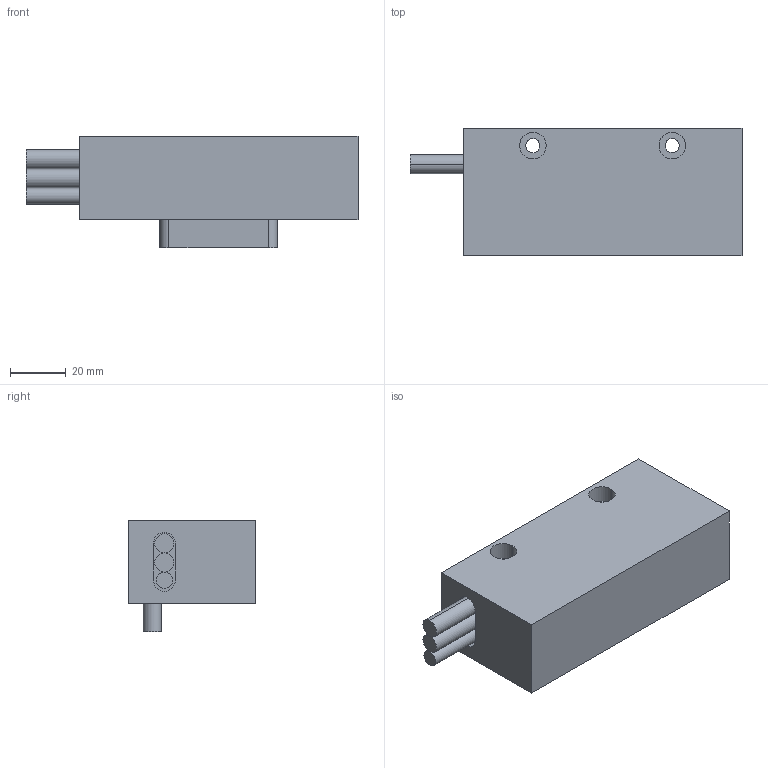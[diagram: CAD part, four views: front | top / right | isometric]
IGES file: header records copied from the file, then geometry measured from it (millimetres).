
Global section: file name: No Iges File Name specified; native system: AutoDesk Inventor R12.0; preprocessor: AutoDesk Inventor Iges Exporter R12.0; date: 20081121.155247; units: inch
Bounding box: 119.05 x 45.72 x 40.16 mm (x, y, z)
Volume: 137942.8 mm3; surface area: 23498.2 mm2
Topology: 1 solids, 1 shells, 67 faces, 158 edges, 88 vertices
Faces by surface type: bspline 42, plane 15, cylinder 8, revolution 2
